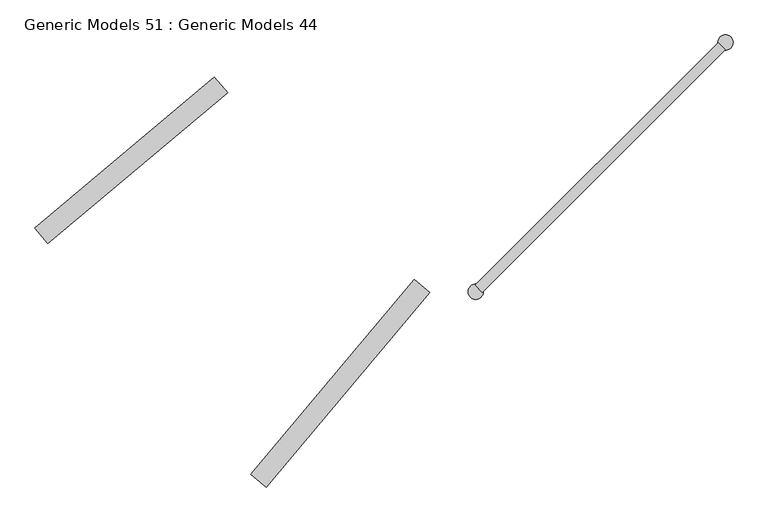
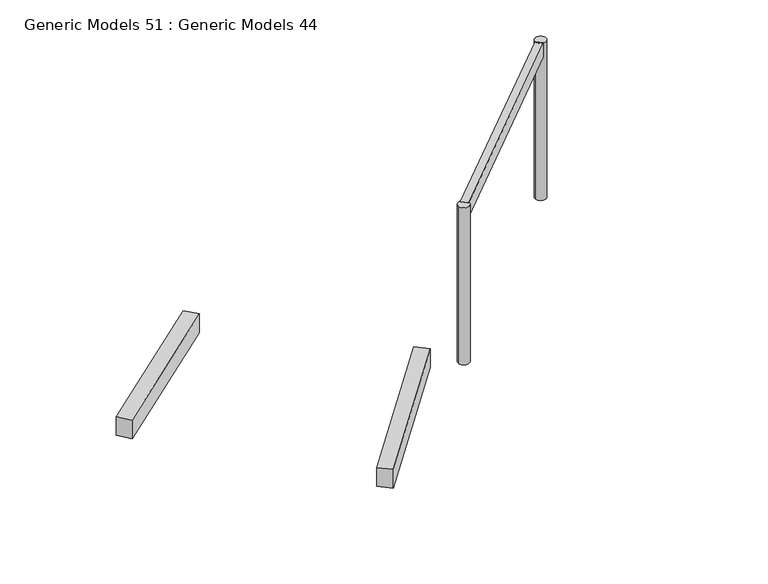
"""IFC4 building model written with IfcOpenShell, lengths in millimetres: proxy geometry, Generic Models 51 : Generic Models 44."""

import ifcopenshell
import ifcopenshell.guid

model = None  # the IFC model being written
_history = None  # IfcOwnerHistory: only IFC2X3 demands one
_inside = {}  # id of a spatial element -> (the spatial element, [elements in it])
_under = {}  # id of a project, library or spatial element -> (it, [spatial elements below it])
_declared = {}  # id of a project -> (the project, [libraries it declares])
_typed = {}  # id of a type object -> (the type object, [elements of that type])
_made_of = {}  # id of a material, layer set ... -> (it, [elements and type objects made of it])


def new_model(schema):
    """Start an empty IFC model of exactly this schema.

    Asked for "IFC4X3", IfcOpenShell would pick the latest addendum, in which some entities
    have other attributes; the version numbers below select the first issue.
    IFC2X3 requires an IfcOwnerHistory on every rooted entity: one is made here for all.
    """
    global model, _history
    if schema == "IFC4X3":
        model = ifcopenshell.file(schema_version=(4, 3, 0, 0))
    else:
        model = ifcopenshell.file(schema=schema)
    _inside.clear()
    _under.clear()
    _declared.clear()
    _typed.clear()
    _made_of.clear()
    _history = None
    if model.schema == "IFC2X3":
        org = make("IfcOrganization", Name="unknown")
        user = make(
            "IfcPersonAndOrganization",
            ThePerson=make("IfcPerson", FamilyName="unknown"),
            TheOrganization=org,
        )
        app = make(
            "IfcApplication",
            ApplicationDeveloper=org,
            Version="unknown",
            ApplicationFullName="unknown",
            ApplicationIdentifier="unknown",
        )
        _history = make(
            "IfcOwnerHistory",
            OwningUser=user,
            OwningApplication=app,
            ChangeAction="ADDED",
            CreationDate=0,
        )
    return model


def make(cls, **values):
    """One entity of the class cls with the attributes given. An attribute that is None is left unset."""
    return model.create_entity(
        cls, **{name: value for name, value in values.items() if value is not None}
    )


def rooted(cls, **values):
    """An entity with a GlobalId (a new one), such as an element, a storey or a relation."""
    return make(cls, GlobalId=ifcopenshell.guid.new(), OwnerHistory=_history, **values)


def si_unit(unit_type, name, prefix=None):
    """IfcSIUnit, for example si_unit("LENGTHUNIT", "METRE", prefix="MILLI")."""
    return make("IfcSIUnit", UnitType=unit_type, Prefix=prefix, Name=name)


def assignment(units):
    """IfcUnitAssignment: the units of a project."""
    return None if units is None else make("IfcUnitAssignment", Units=units)


def point(xyz):
    """IfcCartesianPoint."""
    return None if xyz is None else make("IfcCartesianPoint", Coordinates=xyz)


def direction(xyz):
    """IfcDirection."""
    return None if xyz is None else make("IfcDirection", DirectionRatios=xyz)


def frame(location, z_axis=None, x_axis=None):
    """IfcAxis2Placement3D, a coordinate frame: its origin and axes. An axis left out is left unset."""
    return make(
        "IfcAxis2Placement3D",
        Location=point(location),
        Axis=direction(z_axis),
        RefDirection=direction(x_axis),
    )


def frame_2d(location, x_axis=None):
    """IfcAxis2Placement2D, a coordinate frame in the plane: its origin and x axis."""
    return make(
        "IfcAxis2Placement2D", Location=point(location), RefDirection=direction(x_axis)
    )


def origin():
    """The frame at (0, 0, 0) with its axes left unset."""
    return frame((0.0, 0.0, 0.0))


def place(relative_to, where):
    """IfcLocalPlacement: puts the frame where relative to a parent placement (None: the world)."""
    return make(
        "IfcLocalPlacement", PlacementRelTo=relative_to, RelativePlacement=where
    )


def context(
    kind, dimensions, precision=None, world=None, true_north=None, identifier=None
):
    """IfcGeometricRepresentationContext, for example the 3D "Model" context."""
    return make(
        "IfcGeometricRepresentationContext",
        ContextIdentifier=identifier,
        ContextType=kind,
        CoordinateSpaceDimension=dimensions,
        Precision=precision,
        WorldCoordinateSystem=world,
        TrueNorth=true_north,
    )


def project(units=None, contexts=None):
    """IfcProject with its units and contexts."""
    return rooted(
        "IfcProject",
        Name="project",
        RepresentationContexts=contexts,
        UnitsInContext=assignment(units),
    )


def spatial(cls, under=None, at=None, **own):
    """A site, building, storey or space (cls), placed at a placement, below another one or the project."""
    s = rooted(cls, ObjectPlacement=at, **own)
    if under is not None:
        _under.setdefault(under.id(), (under, []))[1].append(s)
    return s


def polyline(points):
    """IfcPolyline through the points."""
    return make("IfcPolyline", Points=[point(p) for p in points])


def circle_curve(where, radius):
    """IfcCircle in the frame where."""
    return make("IfcCircle", Position=where, Radius=radius)


def trimmed(basis, trim1, trim2, sense, master):
    """IfcTrimmedCurve: the piece of a basis curve between two trims."""
    return make(
        "IfcTrimmedCurve",
        BasisCurve=basis,
        Trim1=trim1,
        Trim2=trim2,
        SenseAgreement=sense,
        MasterRepresentation=master,
    )


def segment(curve, same_sense, transition):
    """IfcCompositeCurveSegment."""
    return make(
        "IfcCompositeCurveSegment",
        Transition=transition,
        SameSense=same_sense,
        ParentCurve=curve,
    )


def composite_curve(segments, self_intersect=None):
    """IfcCompositeCurve: segments joined end to end."""
    return make("IfcCompositeCurve", Segments=segments, SelfIntersect=self_intersect)


def outline(outer, holes=None, kind="AREA"):
    """IfcArbitraryClosedProfileDef: a profile drawn as a closed curve; with holes, ...WithVoids."""
    if holes is None:
        return make("IfcArbitraryClosedProfileDef", ProfileType=kind, OuterCurve=outer)
    return make(
        "IfcArbitraryProfileDefWithVoids",
        ProfileType=kind,
        OuterCurve=outer,
        InnerCurves=holes,
    )


def extrude(swept, where, along, depth):
    """IfcExtrudedAreaSolid: the profile swept, set in the frame where, extruded along a direction by depth."""
    return make(
        "IfcExtrudedAreaSolid",
        SweptArea=swept,
        Position=where,
        ExtrudedDirection=direction(along),
        Depth=depth,
    )


def shape(context_of_items, identifier, shape_type, items):
    """IfcShapeRepresentation: the items that make up one representation, for example the "Body"."""
    return make(
        "IfcShapeRepresentation",
        ContextOfItems=context_of_items,
        RepresentationIdentifier=identifier,
        RepresentationType=shape_type,
        Items=items,
    )


def source(mapping_origin, context_of_items, identifier, shape_type, items):
    """IfcRepresentationMap: a shape defined once, which mapped items show again and again."""
    return make(
        "IfcRepresentationMap",
        MappingOrigin=mapping_origin,
        MappedRepresentation=shape(context_of_items, identifier, shape_type, items),
    )


def transform(
    local_origin,
    x_axis=None,
    y_axis=None,
    z_axis=None,
    scale=None,
    scale2=None,
    scale3=None,
    uniform=True,
):
    """IfcCartesianTransformationOperator3D, or its non-uniform kind. x_axis, y_axis, z_axis: its Axis1, 2, 3."""
    if uniform:
        return make(
            "IfcCartesianTransformationOperator3D",
            Axis1=direction(x_axis),
            Axis2=direction(y_axis),
            LocalOrigin=point(local_origin),
            Scale=scale,
            Axis3=direction(z_axis),
        )
    return make(
        "IfcCartesianTransformationOperator3DnonUniform",
        Axis1=direction(x_axis),
        Axis2=direction(y_axis),
        LocalOrigin=point(local_origin),
        Scale=scale,
        Axis3=direction(z_axis),
        Scale2=scale2,
        Scale3=scale3,
    )


def mapped(mapping_source, mapping_target):
    """IfcMappedItem: shows the shape of a source again, moved by a transform."""
    return make(
        "IfcMappedItem", MappingSource=mapping_source, MappingTarget=mapping_target
    )


def made_of(thing, what):
    """Note that an element or type object is made of a material, layer set ...; save() writes the relation."""
    if what is not None:
        _made_of.setdefault(what.id(), (what, []))[1].append(thing)
    return thing


def element(
    cls,
    number,
    at=None,
    inside=None,
    cuts=None,
    type_object=None,
    material=None,
    context=None,
    identifier="Body",
    shape_type=None,
    held_by="IfcProductDefinitionShape",
    body=None,
    shapes=None,
    **own,
):
    """One element of the class cls, such as IfcWall. Its Tag is "e" and its number.

    at: its placement. inside: the storey or other place that contains it. cuts: it is an
    opening in that element (IfcRelVoidsElement). A single representation is given by context,
    identifier, shape_type and body (its items); several are given by shapes. held_by: the class
    of the entity that holds the representations. save() writes the other relations.
    """
    e = rooted(cls, Tag="e%d" % number, ObjectPlacement=at, **own)
    if body is not None:
        shapes = [shape(context, identifier, shape_type, body)]
    if shapes is not None:
        e.Representation = make(held_by, Representations=shapes)
    if inside is not None:
        _inside.setdefault(inside.id(), (inside, []))[1].append(e)
    if cuts is not None:
        rooted(
            "IfcRelVoidsElement", RelatingBuildingElement=cuts, RelatedOpeningElement=e
        )
    if type_object is not None:
        _typed.setdefault(type_object.id(), (type_object, []))[1].append(e)
    return made_of(e, material)


def aggregate(whole, parts):
    """IfcRelAggregates: a whole, such as a stair, and the parts it consists of."""
    return rooted("IfcRelAggregates", RelatingObject=whole, RelatedObjects=parts)


def save(model, path):
    """Write the relations noted so far, then the file.

    IfcRelAggregates (storeys below a building ...), IfcRelContainedInSpatialStructure (elements
    in a storey), IfcRelDefinesByType, IfcRelAssociatesMaterial and IfcRelDeclares: one each for
    every whole, place, type object, material and project.
    """
    for whole, parts in _under.values():
        aggregate(whole, parts)
    for where, things in _inside.values():
        rooted(
            "IfcRelContainedInSpatialStructure",
            RelatedElements=things,
            RelatingStructure=where,
        )
    for kind, things in _typed.values():
        rooted("IfcRelDefinesByType", RelatedObjects=things, RelatingType=kind)
    for what, things in _made_of.values():
        rooted("IfcRelAssociatesMaterial", RelatedObjects=things, RelatingMaterial=what)
    for by, libraries in _declared.values():
        rooted("IfcRelDeclares", RelatingContext=by, RelatedDefinitions=libraries)
    model.write(path)


def generic_models_51_generic_models_44_150fb150(model_context):
    return source(origin(), model_context, "Body", "SweptSolid", [
        extrude(outline(polyline([(-98024.8237243, -35737.0994253), (-98178.032613, -35608.5419033), (-96567.0052604, -33688.5942681), (-96413.7963718, -33817.1517901), (-98024.8237243, -35737.0994253)])), frame((0.0, 0.0, 42770.0), z_axis=(0.0, 0.0, 1.0), x_axis=(1.0, 0.0, 0.0)), (0.0, 0.0, 1.0), 268.5053554),
        extrude(outline(polyline([(-100173.8505659, -33333.9533005), (-100302.4080879, -33180.7444118), (-98534.0404134, -31696.9077484), (-98405.4828915, -31850.116637), (-100173.8505659, -33333.9533005)])), frame((0.0, 0.0, 42770.0), z_axis=(0.0, 0.0, 1.0), x_axis=(1.0, 0.0, 0.0)), (0.0, 0.0, 1.0), 268.5053554),
        extrude(outline(polyline([(-95896.0140466, -33817.7796088), (-95966.7247247, -33747.0689307), (-93574.0096872, -31354.3538932), (-93503.2990091, -31425.0645713), (-95896.0140466, -33817.7796088)])), frame((0.0, 0.0, 44746.1646464), z_axis=(0.0, 0.0, 1.0), x_axis=(1.0, 0.0, 0.0)), (0.0, 0.0, 1.0), 195.4634247),
        extrude(outline(composite_curve([segment(trimmed(circle_curve(frame_2d((-95961.081248, -33810.9678051)), 75.0), [point((-96036.081248, -33810.9678051))], [point((-95886.081248, -33810.9678051))], False, "CARTESIAN"), True, "CONTINUOUS"), segment(trimmed(circle_curve(frame_2d((-95961.081248, -33810.9678051)), 75.0), [point((-95886.081248, -33810.9678051))], [point((-96036.081248, -33810.9678051))], False, "CARTESIAN"), True, "CONTINUOUS")], self_intersect=False)), frame((0.0, 0.0, 42695.9057084), z_axis=(0.0, 0.0, 1.0), x_axis=(1.0, 0.0, 0.0)), (0.0, 0.0, 1.0), 2245.7223627),
        extrude(outline(composite_curve([segment(trimmed(circle_curve(frame_2d((-93500.8925187, -31353.5552475)), 75.0), [point((-93575.8925187, -31353.5552475))], [point((-93425.8925187, -31353.5552475))], False, "CARTESIAN"), True, "CONTINUOUS"), segment(trimmed(circle_curve(frame_2d((-93500.8925187, -31353.5552475)), 75.0), [point((-93425.8925187, -31353.5552475))], [point((-93575.8925187, -31353.5552475))], False, "CARTESIAN"), True, "CONTINUOUS")], self_intersect=False)), frame((0.0, 0.0, 42695.9057084), z_axis=(0.0, 0.0, 1.0), x_axis=(1.0, 0.0, 0.0)), (0.0, 0.0, 1.0), 2245.7223627),
    ])


if __name__ == "__main__":
    model = new_model("IFC4")
    model_context = context("Model", 3, world=origin())
    ifc_project = project(units=[si_unit("LENGTHUNIT", "METRE", prefix="MILLI")], contexts=[model_context])
    site = spatial("IfcSite", under=ifc_project)
    building = spatial("IfcBuilding", under=site)
    placement = place(None, origin())
    generic_models_51_generic_models_44_shape = generic_models_51_generic_models_44_150fb150(model_context)
    element("IfcBuildingElementProxy", 1, Name="Generic Models 51 : Generic Models 44", ObjectType="Generic Models 51 : Generic Models 44", at=placement, inside=building, context=model_context, shape_type="MappedRepresentation", body=[
        mapped(generic_models_51_generic_models_44_shape, transform((0.0, 0.0, 0.0), x_axis=(1.0, 0.0, 0.0), y_axis=(0.0, 1.0, 0.0), z_axis=(0.0, 0.0, 1.0))),
    ])
    save(model, "model.ifc")
